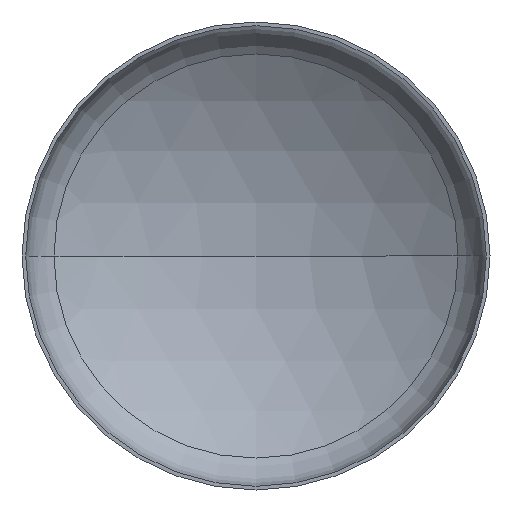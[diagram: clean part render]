
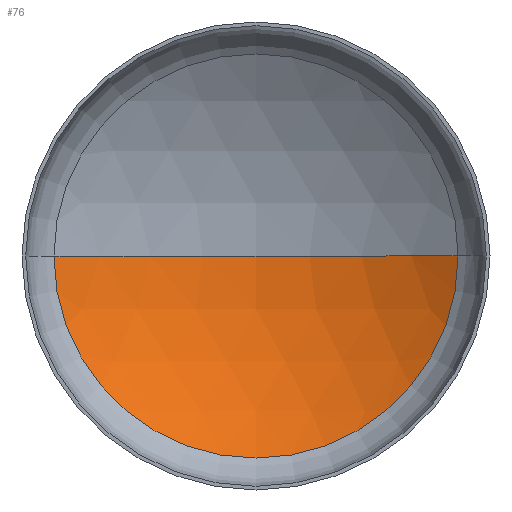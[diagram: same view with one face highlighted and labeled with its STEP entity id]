
A CAD part, front view. The second image highlights one B-rep face of the part: STEP entity #76.
In plain terms, the highlighted spherical face has radius 199.2 mm.
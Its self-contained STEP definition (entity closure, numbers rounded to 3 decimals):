
#3 = EDGE_CURVE ( 'NONE', #278, #17, #234, .T. ) ;
#10 = DIRECTION ( 'NONE',  ( -1., 0., 0. ) ) ;
#17 = VERTEX_POINT ( 'NONE', #350 ) ;
#39 = CARTESIAN_POINT ( 'NONE',  ( 0., -134.2, 0. ) ) ;
#46 = CARTESIAN_POINT ( 'NONE',  ( 0., -134.2, 0. ) ) ;
#56 = AXIS2_PLACEMENT_3D ( 'NONE', #46, #72, #231 ) ;
#71 = AXIS2_PLACEMENT_3D ( 'NONE', #39, #346, #255 ) ;
#72 = DIRECTION ( 'NONE',  ( 0., 0., 1. ) ) ;
#76 = ADVANCED_FACE ( 'NONE', ( #131 ), #101, .F. ) ;
#79 = CARTESIAN_POINT ( 'NONE',  ( 0., -134.2, 0. ) ) ;
#101 = SPHERICAL_SURFACE ( 'NONE', #56, 199.2 ) ;
#106 = CARTESIAN_POINT ( 'NONE',  ( -109.675, 32.089, 0. ) ) ;
#107 = AXIS2_PLACEMENT_3D ( 'NONE', #208, #244, #247 ) ;
#120 = VERTEX_POINT ( 'NONE', #106 ) ;
#126 = CIRCLE ( 'NONE', #107, 109.675 ) ;
#131 = FACE_OUTER_BOUND ( 'NONE', #313, .T. ) ;
#146 = CARTESIAN_POINT ( 'NONE',  ( 109.675, 32.089, 0. ) ) ;
#151 = EDGE_CURVE ( 'NONE', #120, #17, #180, .T. ) ;
#177 = DIRECTION ( 'NONE',  ( 0., 0., -1. ) ) ;
#180 = CIRCLE ( 'NONE', #281, 199.2 ) ;
#208 = CARTESIAN_POINT ( 'NONE',  ( 0., 32.089, 0. ) ) ;
#231 = DIRECTION ( 'NONE',  ( -1., 0., 0. ) ) ;
#234 = CIRCLE ( 'NONE', #71, 199.2 ) ;
#243 = ORIENTED_EDGE ( 'NONE', *, *, #3, .T. ) ;
#244 = DIRECTION ( 'NONE',  ( 0., 1., 0. ) ) ;
#247 = DIRECTION ( 'NONE',  ( -1., 0., 0. ) ) ;
#255 = DIRECTION ( 'NONE',  ( 1., 0., 0. ) ) ;
#272 = ORIENTED_EDGE ( 'NONE', *, *, #338, .F. ) ;
#278 = VERTEX_POINT ( 'NONE', #146 ) ;
#281 = AXIS2_PLACEMENT_3D ( 'NONE', #79, #177, #10 ) ;
#313 = EDGE_LOOP ( 'NONE', ( #272, #243, #318 ) ) ;
#318 = ORIENTED_EDGE ( 'NONE', *, *, #151, .F. ) ;
#338 = EDGE_CURVE ( 'NONE', #278, #120, #126, .T. ) ;
#346 = DIRECTION ( 'NONE',  ( 0., 0., 1. ) ) ;
#350 = CARTESIAN_POINT ( 'NONE',  ( 0., 65., 0. ) ) ;
